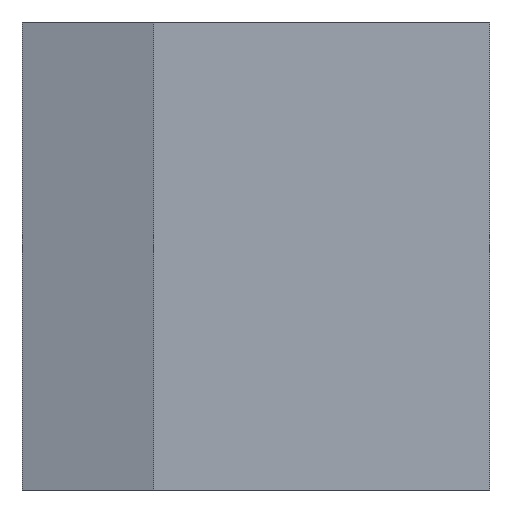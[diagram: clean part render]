
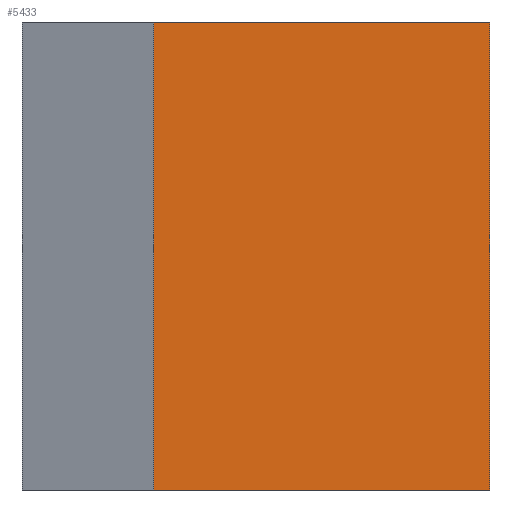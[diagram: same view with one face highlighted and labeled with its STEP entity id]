
A CAD part, left-side view. The second image highlights one B-rep face of the part: STEP entity #5433.
In plain terms, the highlighted planar face has unit normal (-1, 0, 0).
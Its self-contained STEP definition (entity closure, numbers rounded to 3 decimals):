
#247=FACE_OUTER_BOUND('',#508,.T.);
#508=EDGE_LOOP('',(#4314,#4315,#4316,#4317));
#1233=LINE('',#8421,#2010);
#1234=LINE('',#8424,#2011);
#1235=LINE('',#8426,#2012);
#1236=LINE('',#8427,#2013);
#2010=VECTOR('',#6887,80.);
#2011=VECTOR('',#6890,57.485);
#2012=VECTOR('',#6891,57.485);
#2013=VECTOR('',#6892,80.);
#2555=VERTEX_POINT('',#8417);
#2556=VERTEX_POINT('',#8419);
#2557=VERTEX_POINT('',#8423);
#2558=VERTEX_POINT('',#8425);
#3305=EDGE_CURVE('',#2555,#2556,#1233,.T.);
#3306=EDGE_CURVE('',#2557,#2555,#1234,.T.);
#3307=EDGE_CURVE('',#2558,#2556,#1235,.T.);
#3308=EDGE_CURVE('',#2557,#2558,#1236,.T.);
#4314=ORIENTED_EDGE('',*,*,#3306,.T.);
#4315=ORIENTED_EDGE('',*,*,#3305,.T.);
#4316=ORIENTED_EDGE('',*,*,#3307,.F.);
#4317=ORIENTED_EDGE('',*,*,#3308,.F.);
#5172=PLANE('',#5696);
#5433=ADVANCED_FACE('',(#247),#5172,.T.);
#5696=AXIS2_PLACEMENT_3D('',#8422,#6888,#6889);
#6887=DIRECTION('',(0.,0.,1.));
#6888=DIRECTION('center_axis',(-1.,0.,0.));
#6889=DIRECTION('ref_axis',(0.,-1.,0.));
#6890=DIRECTION('',(0.,-1.,0.));
#6891=DIRECTION('',(0.,-1.,0.));
#6892=DIRECTION('',(0.,0.,1.));
#8417=CARTESIAN_POINT('',(224.871,7.896,0.));
#8419=CARTESIAN_POINT('',(224.871,7.896,80.));
#8421=CARTESIAN_POINT('',(224.871,7.896,0.));
#8422=CARTESIAN_POINT('Origin',(224.871,65.381,0.));
#8423=CARTESIAN_POINT('',(224.871,65.381,0.));
#8424=CARTESIAN_POINT('',(224.871,65.381,0.));
#8425=CARTESIAN_POINT('',(224.871,65.381,80.));
#8426=CARTESIAN_POINT('',(224.871,65.381,80.));
#8427=CARTESIAN_POINT('',(224.871,65.381,0.));
